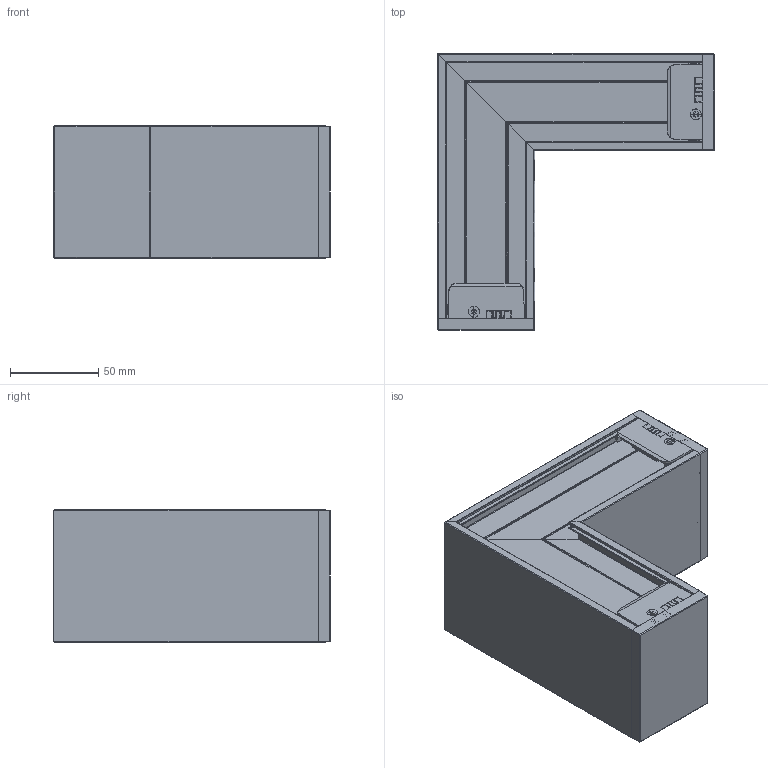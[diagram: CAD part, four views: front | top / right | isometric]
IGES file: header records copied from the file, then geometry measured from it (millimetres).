
Global section: file name: C:\Users\info\Desktop\CRIS\05. NEW PRODUCT\LUMINARIA KISS\3D para web\KISS L - IGS.igs; native system: Rhinoceros ( Feb 27 2019 ); preprocessor: Trout Lake IGES 012 Feb 27 2019; date: 260427.135555; units: millimetre
Bounding box: 156.74 x 156.74 x 75 mm (x, y, z)
Surface area: 249738.5 mm2 (no closed solid volume)
Topology: 0 solids, 0 shells, 2210 faces, 19368 edges, 19362 vertices
Faces by surface type: bspline 2210
